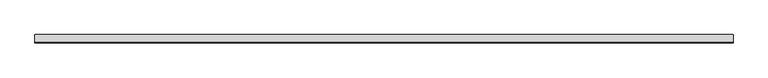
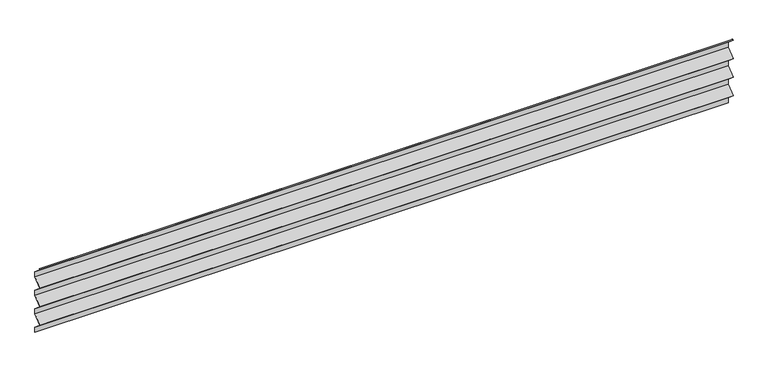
"""IFC4 building model written with IfcOpenShell, lengths in millimetres: plate geometry, HIANSA - H20.F09.008-CHAPA PERFILADA FACHADA HORIZONTAL - MT53MA7 - Panel de Muro Cortina : -."""

from ifc_helpers import new_model, si_unit, frame, origin, place, context, project, spatial, polyline, outline, extrude, source, transform, mapped, element, save


def plate_7b84aecb(model_context):
    return source(origin(), model_context, "Body", "SweptSolid", [
        extrude(outline(polyline([(-53.1067873, 433.8164674), (-49.4063348, 437.0), (-48.1796682, 437.0), (-51.8801207, 433.8164674), (0.0, 389.1835326), (0.0, 354.4494022), (-51.8801207, 309.8164674), (0.0, 265.1835326), (0.0, 230.4494022), (-51.8801207, 185.8164674), (0.0, 141.1835326), (0.0, 106.4494022), (-51.8801207, 61.8164674), (0.0, 17.1835326), (0.0, -17.1835326), (-0.8, -17.1835326), (-0.8, 16.8164674), (-53.1067873, 61.8164674), (-0.8, 106.8164674), (-0.8, 140.8164674), (-53.1067873, 185.8164674), (-0.8, 230.8164674), (-0.8, 264.8164674), (-53.1067873, 309.8164674), (-0.8, 354.8164674), (-0.8, 388.8164674), (-53.1067873, 433.8164674)])), frame((-2200.0, 0.0, 0.0), z_axis=(1.0, 0.0, 0.0), x_axis=(0.0, 1.0, 0.0)), (0.0, 0.0, 1.0), 4400.0),
    ])


if __name__ == "__main__":
    model = new_model("IFC4")
    model_context = context("Model", 3, world=origin())
    ifc_project = project(units=[si_unit("LENGTHUNIT", "METRE", prefix="MILLI")], contexts=[model_context])
    site = spatial("IfcSite", under=ifc_project)
    building = spatial("IfcBuilding", under=site)
    placement = place(None, origin())
    plate_shape = plate_7b84aecb(model_context)
    element("IfcPlate", 1, ObjectType="HIANSA - H20.F09.008-CHAPA PERFILADA FACHADA HORIZONTAL - MT53MA7 - Panel de Muro Cortina : -", at=placement, inside=building, context=model_context, shape_type="MappedRepresentation", body=[
        mapped(plate_shape, transform((0.0, 0.0, 0.0), x_axis=(1.0, 0.0, 0.0), y_axis=(0.0, 1.0, 0.0), z_axis=(0.0, 0.0, 1.0))),
    ])
    save(model, "model.ifc")
